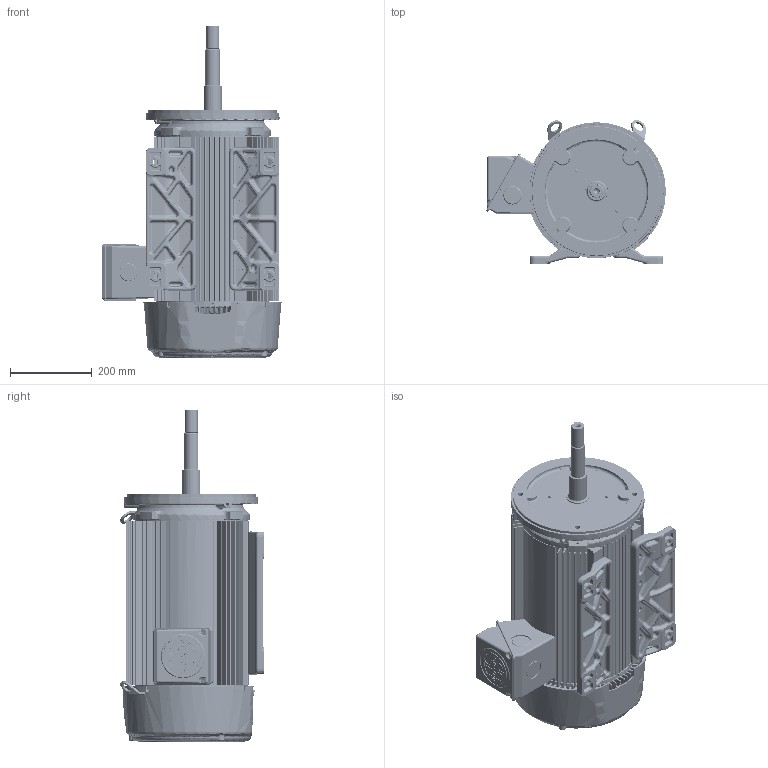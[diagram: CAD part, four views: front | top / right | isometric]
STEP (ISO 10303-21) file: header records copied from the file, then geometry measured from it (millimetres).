
FILE_DESCRIPTION((''),'2;1');
FILE_NAME('CCP_CFACE_ASM','2016-02-29T',('EMD2341'),('Nidec Motor Corporation'),'PRO/ENGINEER BY PARAMETRIC TECHNOLOGY CORPORATION, 2013150','PRO/ENGINEER BY PARAMETRIC TECHNOLOGY CORPORATION, 2013150','');
FILE_SCHEMA(('CONFIG_CONTROL_DESIGN'));
Length unit declared in the file: inch
Products named in the file (13): 0367969_AF0; 1001039; 0375099-BKT_AF2; 2033996-004_AF0; 0375600_ASM; 0561420; 0369710; 0364285; 0368171; 0369733; 0364282-OBB; 0364292; CCP_CFACE_ASM
Assembly tree (14 placements, depth 3):
  CCP_CFACE_ASM
    0367969_AF0
    1001039
    0375600_ASM
      0375099-BKT_AF2
      2033996-004_AF0
    0561420
    0369710
    0364285
    0368171  x2
    0369733  x2
    0364282-OBB
    0364292
Bounding box: 440.73 x 351.71 x 813.7 mm (x, y, z)
Volume: 11175149.5 mm3; surface area: 3340421.5 mm2
Topology: 15 solids, 15 shells, 9686 faces, 22955 edges, 13276 vertices
Faces by surface type: bspline 5001, cylinder 1642, plane 1398, torus 908, cone 552, sphere 185
Entity records: 481567 total; most frequent: CARTESIAN_POINT 304276, ORIENTED_EDGE 43108, DIRECTION 28400, EDGE_CURVE 21554, VERTEX_POINT 12497, AXIS2_PLACEMENT_3D 11634, EDGE_LOOP 9315, B_SPLINE_CURVE_WITH_KNOTS 9128
